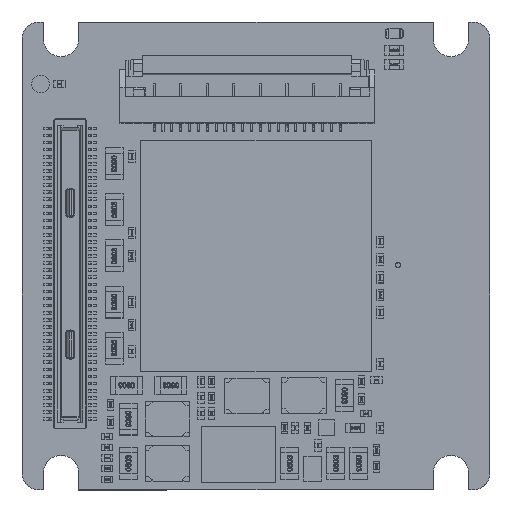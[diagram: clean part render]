
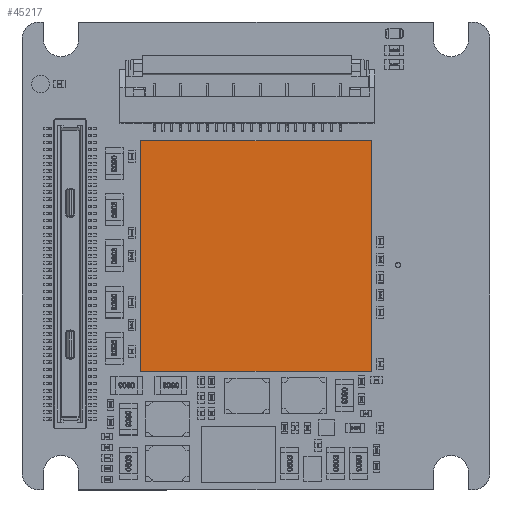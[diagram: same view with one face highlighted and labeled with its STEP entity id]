
A CAD part, top view. The second image highlights one B-rep face of the part: STEP entity #45217.
In plain terms, the highlighted planar face has unit normal (0, 0, 1).
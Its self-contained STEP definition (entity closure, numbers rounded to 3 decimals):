
#12880 = VECTOR ( 'NONE', #282006, 1000. ) ;
#18657 = VECTOR ( 'NONE', #290894, 1000. ) ;
#27649 = FACE_OUTER_BOUND ( 'NONE', #463229, .T. ) ;
#32811 = CARTESIAN_POINT ( 'NONE',  ( 0., 0., 6.162 ) ) ;
#41591 = LINE ( 'NONE', #201034, #12880 ) ;
#45217 = ADVANCED_FACE ( 'NONE', ( #27649 ), #432468, .F. ) ;
#65033 = CARTESIAN_POINT ( 'NONE',  ( 6.5, -6.5, 6.162 ) ) ;
#83143 = VERTEX_POINT ( 'NONE', #177283 ) ;
#89745 = CARTESIAN_POINT ( 'NONE',  ( 6.5, 6.5, 6.162 ) ) ;
#134151 = EDGE_CURVE ( 'NONE', #280145, #239142, #211490, .T. ) ;
#147735 = DIRECTION ( 'NONE',  ( 0., -1., 0. ) ) ;
#151734 = CARTESIAN_POINT ( 'NONE',  ( -6.5, 6.5, 6.162 ) ) ;
#152367 = CARTESIAN_POINT ( 'NONE',  ( -6.5, 6.5, 6.162 ) ) ;
#172268 = DIRECTION ( 'NONE',  ( -1., 0., 0. ) ) ;
#177283 = CARTESIAN_POINT ( 'NONE',  ( 6.5, 6.5, 6.162 ) ) ;
#192149 = DIRECTION ( 'NONE',  ( 0., 0., -1. ) ) ;
#201034 = CARTESIAN_POINT ( 'NONE',  ( -6.5, -6.5, 6.162 ) ) ;
#211490 = LINE ( 'NONE', #370774, #283323 ) ;
#219965 = DIRECTION ( 'NONE',  ( 1., 0., 0. ) ) ;
#239142 = VERTEX_POINT ( 'NONE', #349891 ) ;
#274473 = AXIS2_PLACEMENT_3D ( 'NONE', #32811, #192149, #147735 ) ;
#280145 = VERTEX_POINT ( 'NONE', #65033 ) ;
#282006 = DIRECTION ( 'NONE',  ( 0., 1., 0. ) ) ;
#283323 = VECTOR ( 'NONE', #172268, 1000. ) ;
#288339 = LINE ( 'NONE', #89745, #18657 ) ;
#290314 = EDGE_CURVE ( 'NONE', #83143, #280145, #288339, .T. ) ;
#290894 = DIRECTION ( 'NONE',  ( 0., -1., 0. ) ) ;
#293277 = ORIENTED_EDGE ( 'NONE', *, *, #290314, .F. ) ;
#349891 = CARTESIAN_POINT ( 'NONE',  ( -6.5, -6.5, 6.162 ) ) ;
#370774 = CARTESIAN_POINT ( 'NONE',  ( 6.5, -6.5, 6.162 ) ) ;
#384206 = VECTOR ( 'NONE', #219965, 1000. ) ;
#403625 = EDGE_CURVE ( 'NONE', #239142, #487140, #41591, .T. ) ;
#413036 = EDGE_CURVE ( 'NONE', #487140, #83143, #509812, .T. ) ;
#432468 = PLANE ( 'NONE',  #274473 ) ;
#453262 = ORIENTED_EDGE ( 'NONE', *, *, #403625, .F. ) ;
#463229 = EDGE_LOOP ( 'NONE', ( #467495, #293277, #485921, #453262 ) ) ;
#467495 = ORIENTED_EDGE ( 'NONE', *, *, #134151, .F. ) ;
#485921 = ORIENTED_EDGE ( 'NONE', *, *, #413036, .F. ) ;
#487140 = VERTEX_POINT ( 'NONE', #152367 ) ;
#509812 = LINE ( 'NONE', #151734, #384206 ) ;
